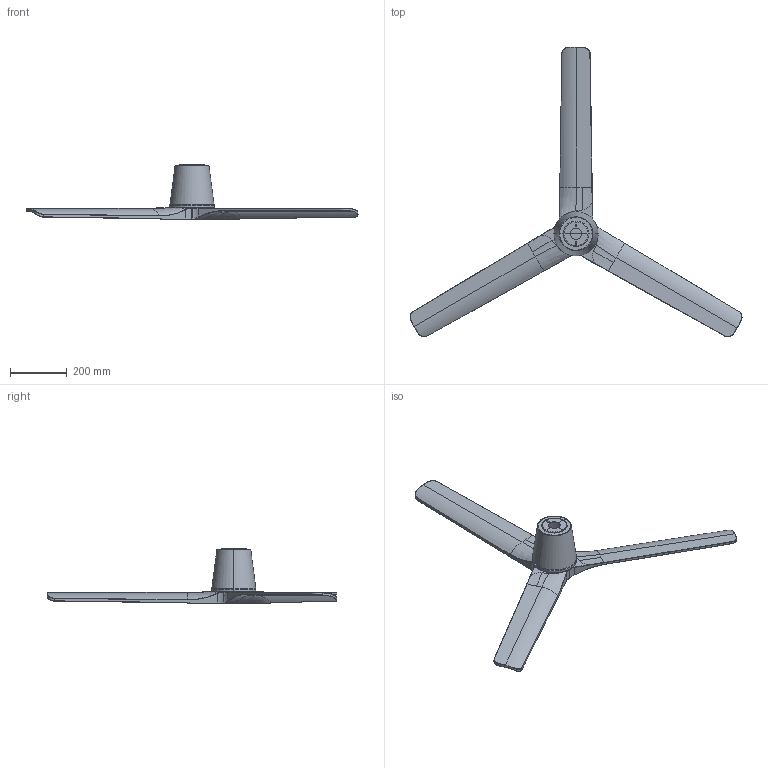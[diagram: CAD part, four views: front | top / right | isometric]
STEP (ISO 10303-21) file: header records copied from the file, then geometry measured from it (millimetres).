
FILE_DESCRIPTION(/* description */ (''),/* implementation_level */ '2;1');
FILE_NAME(/* name */ 'heywood_tub_l_3d',/* time_stamp */ '2026-06-08T13:20:24+02:00',/* author */ (''),/* organization */ (''),/* preprocessor_version */ 'ST-DEVELOPER v19.2',/* originating_system */ 'Rhino 8.30',/* authorisation */ '');
FILE_SCHEMA (('CONFIG_CONTROL_DESIGN'));
Length unit declared in the file: millimetre
Products named in the file (1): Document
Bounding box: 1175.17 x 1024.94 x 193.5 mm (x, y, z)
Surface area: 732885.2 mm2 (no closed solid volume)
Topology: 0 solids, 4 shells, 259 faces, 616 edges, 361 vertices
Faces by surface type: bspline 111, cylinder 84, plane 64
Entity records: 17271 total; most frequent: CARTESIAN_POINT 12056, ORIENTED_EDGE 1210, EDGE_CURVE 613, B_SPLINE_CURVE_WITH_KNOTS 503, DIRECTION 368, VERTEX_POINT 361, EDGE_LOOP 281, ADVANCED_FACE 259
